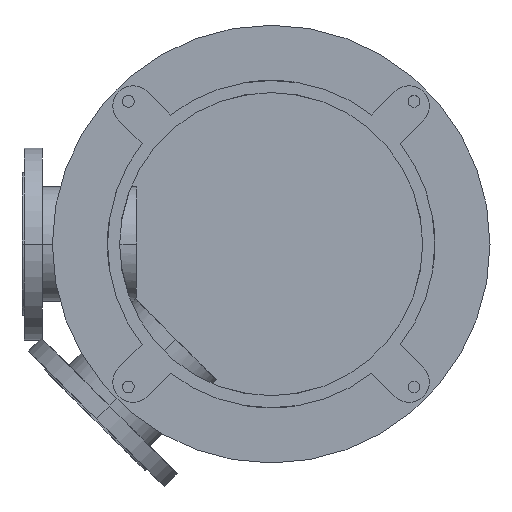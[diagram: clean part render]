
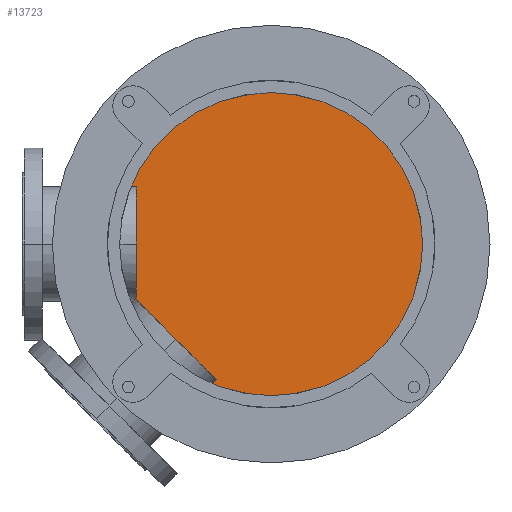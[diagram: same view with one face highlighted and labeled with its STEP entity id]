
A CAD part, front view. The second image highlights one B-rep face of the part: STEP entity #13723.
In plain terms, the highlighted planar face has unit normal (0, -1, 0).
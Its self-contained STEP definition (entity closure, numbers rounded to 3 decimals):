
#3290=CARTESIAN_POINT('',(0.,500.,0.));
#3291=DIRECTION('',(0.,-1.,0.));
#3292=DIRECTION('',(0.,0.,1.));
#3293=AXIS2_PLACEMENT_3D('',#3290,#3291,#3292);
#3469=CARTESIAN_POINT('',(0.,500.,0.));
#3470=DIRECTION('',(0.,-1.,0.));
#3471=DIRECTION('',(0.,0.,-1.));
#3472=AXIS2_PLACEMENT_3D('',#3469,#3470,#3471);
#8657=CARTESIAN_POINT('',(0.,500.,240.));
#8658=CARTESIAN_POINT('',(0.,500.,-240.));
#8659=VERTEX_POINT('',#8657);
#8660=VERTEX_POINT('',#8658);
#13713=CARTESIAN_POINT('',(0.,500.,0.));
#13714=DIRECTION('',(0.,1.,0.));
#13715=DIRECTION('',(0.,0.,-1.));
#13716=AXIS2_PLACEMENT_3D('',#13713,#13714,#13715);
#13717=PLANE('',#13716);
#13718=ORIENTED_EDGE('',*,*,#13691,.F.);
#13720=ORIENTED_EDGE('',*,*,#13719,.F.);
#13721=EDGE_LOOP('',(#13718,#13720));
#13722=FACE_OUTER_BOUND('',#13721,.F.);
#13723=ADVANCED_FACE('',(#13722),#13717,.F.);
#3294=CIRCLE('',#3293,240.);
#3473=CIRCLE('',#3472,240.);
#13691=EDGE_CURVE('',#8659,#8660,#3294,.T.);
#13719=EDGE_CURVE('',#8660,#8659,#3473,.T.);
